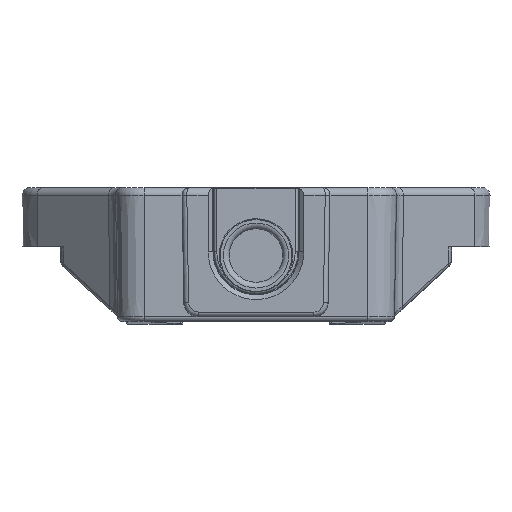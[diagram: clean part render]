
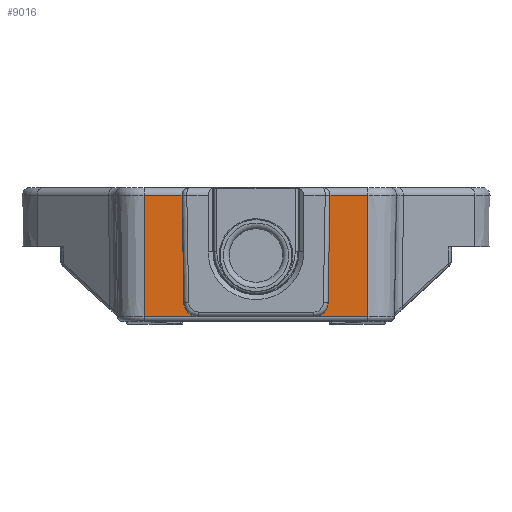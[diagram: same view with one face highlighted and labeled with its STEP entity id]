
A CAD part, front view. The second image highlights one B-rep face of the part: STEP entity #9016.
In plain terms, the highlighted planar face has unit normal (0, -1, -0.018).
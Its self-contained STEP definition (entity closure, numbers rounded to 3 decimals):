
#47 = CARTESIAN_POINT ( 'NONE',  ( 7.525, -49.775, 1.107 ) ) ;
#401 = VERTEX_POINT ( 'NONE', #7384 ) ;
#414 = CARTESIAN_POINT ( 'NONE',  ( -6.907, -49.764, 0.5 ) ) ;
#429 = VERTEX_POINT ( 'NONE', #4625 ) ;
#439 = DIRECTION ( 'NONE',  ( 0., 1., 0.017 ) ) ;
#518 = DIRECTION ( 'NONE',  ( -1., 0., 0. ) ) ;
#572 = VERTEX_POINT ( 'NONE', #3445 ) ;
#980 = ORIENTED_EDGE ( 'NONE', *, *, #1483, .T. ) ;
#1257 = CARTESIAN_POINT ( 'NONE',  ( -7.54, -49.79, 1.974 ) ) ;
#1370 = VERTEX_POINT ( 'NONE', #8243 ) ;
#1397 = ORIENTED_EDGE ( 'NONE', *, *, #8624, .F. ) ;
#1465 = VECTOR ( 'NONE', #7096, 1000. ) ;
#1483 = EDGE_CURVE ( 'NONE', #3292, #3490, #7317, .T. ) ;
#1487 = VECTOR ( 'NONE', #6968, 1000. ) ;
#1495 = DIRECTION ( 'NONE',  ( -1., 0., 0. ) ) ;
#1535 = CARTESIAN_POINT ( 'NONE',  ( -7.743, -49.993, 13.594 ) ) ;
#1631 = EDGE_CURVE ( 'NONE', #5561, #3049, #3480, .T. ) ;
#1882 = CARTESIAN_POINT ( 'NONE',  ( 0., -49.764, 0.5 ) ) ;
#2076 = CARTESIAN_POINT ( 'NONE',  ( 11.7, -49.986, 13.186 ) ) ;
#2142 = LINE ( 'NONE', #1882, #9170 ) ;
#2454 = VECTOR ( 'NONE', #6781, 1000. ) ;
#2502 = ORIENTED_EDGE ( 'NONE', *, *, #3613, .T. ) ;
#2592 = EDGE_CURVE ( 'NONE', #5244, #572, #7549, .T. ) ;
#2593 = CARTESIAN_POINT ( 'NONE',  ( -7.736, -49.986, 13.186 ) ) ;
#2638 = DIRECTION ( 'NONE',  ( 0., -0.017, 1. ) ) ;
#3049 = VERTEX_POINT ( 'NONE', #2076 ) ;
#3131 = VECTOR ( 'NONE', #9247, 1000. ) ;
#3194 = CARTESIAN_POINT ( 'NONE',  ( 6.04, -49.764, 0.5 ) ) ;
#3281 = CARTESIAN_POINT ( 'NONE',  ( 7.54, -49.79, 1.974 ) ) ;
#3292 = VERTEX_POINT ( 'NONE', #8747 ) ;
#3331 = ORIENTED_EDGE ( 'NONE', *, *, #5688, .T. ) ;
#3445 = CARTESIAN_POINT ( 'NONE',  ( -11.7, -49.986, 13.186 ) ) ;
#3480 = LINE ( 'NONE', #5537, #1487 ) ;
#3490 = VERTEX_POINT ( 'NONE', #3194 ) ;
#3496 = CARTESIAN_POINT ( 'NONE',  ( -7.54, -49.79, 1.974 ) ) ;
#3613 = EDGE_CURVE ( 'NONE', #1370, #572, #6617, .T. ) ;
#3629 = CARTESIAN_POINT ( 'NONE',  ( 6.04, -49.764, 0.5 ) ) ;
#3784 = CARTESIAN_POINT ( 'NONE',  ( 7.748, -49.998, 13.865 ) ) ;
#4012 = CARTESIAN_POINT ( 'NONE',  ( 6.907, -49.764, 0.5 ) ) ;
#4033 = CARTESIAN_POINT ( 'NONE',  ( -6.04, -49.764, 0.5 ) ) ;
#4146 = CARTESIAN_POINT ( 'NONE',  ( 0., -50., 14. ) ) ;
#4160 = EDGE_CURVE ( 'NONE', #3490, #429, #2142, .T. ) ;
#4234 = CARTESIAN_POINT ( 'NONE',  ( -11.7, -49.764, 0.491 ) ) ;
#4277 = EDGE_CURVE ( 'NONE', #429, #8371, #7003, .T. ) ;
#4469 = EDGE_CURVE ( 'NONE', #401, #3292, #5650, .T. ) ;
#4475 = DIRECTION ( 'NONE',  ( -0.017, 0.017, -1. ) ) ;
#4625 = CARTESIAN_POINT ( 'NONE',  ( -6.04, -49.764, 0.5 ) ) ;
#4643 = VECTOR ( 'NONE', #7169, 1000. ) ;
#4771 = CARTESIAN_POINT ( 'NONE',  ( -7.525, -49.775, 1.107 ) ) ;
#4889 = ORIENTED_EDGE ( 'NONE', *, *, #4469, .T. ) ;
#5054 = VECTOR ( 'NONE', #1495, 1000. ) ;
#5064 = ORIENTED_EDGE ( 'NONE', *, *, #1631, .T. ) ;
#5244 = VERTEX_POINT ( 'NONE', #9480 ) ;
#5452 = CARTESIAN_POINT ( 'NONE',  ( -11.7, -49.764, 0.491 ) ) ;
#5530 = LINE ( 'NONE', #6840, #5054 ) ;
#5537 = CARTESIAN_POINT ( 'NONE',  ( 11.7, -49.764, 0.491 ) ) ;
#5561 = VERTEX_POINT ( 'NONE', #9649 ) ;
#5616 = PLANE ( 'NONE',  #6909 ) ;
#5650 = LINE ( 'NONE', #3784, #8937 ) ;
#5688 = EDGE_CURVE ( 'NONE', #5244, #5561, #6206, .T. ) ;
#6206 = LINE ( 'NONE', #5452, #3131 ) ;
#6290 = ORIENTED_EDGE ( 'NONE', *, *, #4160, .T. ) ;
#6617 = LINE ( 'NONE', #2593, #4643 ) ;
#6781 = DIRECTION ( 'NONE',  ( 0.017, 0.017, -1. ) ) ;
#6840 = CARTESIAN_POINT ( 'NONE',  ( 11.7, -49.986, 13.186 ) ) ;
#6909 = AXIS2_PLACEMENT_3D ( 'NONE', #4146, #439, #2638 ) ;
#6968 = DIRECTION ( 'NONE',  ( 0., -0.017, 1. ) ) ;
#7003 =( BOUNDED_CURVE ( )  B_SPLINE_CURVE ( 3, ( #4033, #414, #4771, #1257 ),
 .UNSPECIFIED., .F., .F. ) 
 B_SPLINE_CURVE_WITH_KNOTS ( ( 4, 4 ),
 ( 3.142, 4.695 ),
 .UNSPECIFIED. ) 
 CURVE ( )  GEOMETRIC_REPRESENTATION_ITEM ( )  RATIONAL_B_SPLINE_CURVE ( ( 1., 0.809, 0.809, 1. ) ) 
 REPRESENTATION_ITEM ( '' )  );
#7051 = EDGE_LOOP ( 'NONE', ( #5064, #7515, #4889, #980, #6290, #8001, #1397, #2502, #8477, #3331 ) ) ;
#7096 = DIRECTION ( 'NONE',  ( 0., -0.017, 1. ) ) ;
#7169 = DIRECTION ( 'NONE',  ( -1., 0., 0. ) ) ;
#7317 =( BOUNDED_CURVE ( )  B_SPLINE_CURVE ( 3, ( #3281, #47, #4012, #3629 ),
 .UNSPECIFIED., .F., .T. ) 
 B_SPLINE_CURVE_WITH_KNOTS ( ( 4, 4 ),
 ( 1.588, 3.142 ),
 .UNSPECIFIED. ) 
 CURVE ( )  GEOMETRIC_REPRESENTATION_ITEM ( )  RATIONAL_B_SPLINE_CURVE ( ( 1., 0.809, 0.809, 1. ) ) 
 REPRESENTATION_ITEM ( '' )  );
#7384 = CARTESIAN_POINT ( 'NONE',  ( 7.736, -49.986, 13.186 ) ) ;
#7515 = ORIENTED_EDGE ( 'NONE', *, *, #9384, .T. ) ;
#7549 = LINE ( 'NONE', #4234, #1465 ) ;
#8001 = ORIENTED_EDGE ( 'NONE', *, *, #4277, .T. ) ;
#8243 = CARTESIAN_POINT ( 'NONE',  ( -7.736, -49.986, 13.186 ) ) ;
#8371 = VERTEX_POINT ( 'NONE', #3496 ) ;
#8477 = ORIENTED_EDGE ( 'NONE', *, *, #2592, .F. ) ;
#8624 = EDGE_CURVE ( 'NONE', #1370, #8371, #8687, .T. ) ;
#8687 = LINE ( 'NONE', #1535, #2454 ) ;
#8747 = CARTESIAN_POINT ( 'NONE',  ( 7.54, -49.79, 1.974 ) ) ;
#8937 = VECTOR ( 'NONE', #4475, 1000. ) ;
#9016 = ADVANCED_FACE ( 'NONE', ( #9621 ), #5616, .F. ) ;
#9170 = VECTOR ( 'NONE', #518, 1000. ) ;
#9247 = DIRECTION ( 'NONE',  ( 1., 0., 0. ) ) ;
#9384 = EDGE_CURVE ( 'NONE', #3049, #401, #5530, .T. ) ;
#9480 = CARTESIAN_POINT ( 'NONE',  ( -11.7, -49.764, 0.491 ) ) ;
#9621 = FACE_OUTER_BOUND ( 'NONE', #7051, .T. ) ;
#9649 = CARTESIAN_POINT ( 'NONE',  ( 11.7, -49.764, 0.491 ) ) ;
